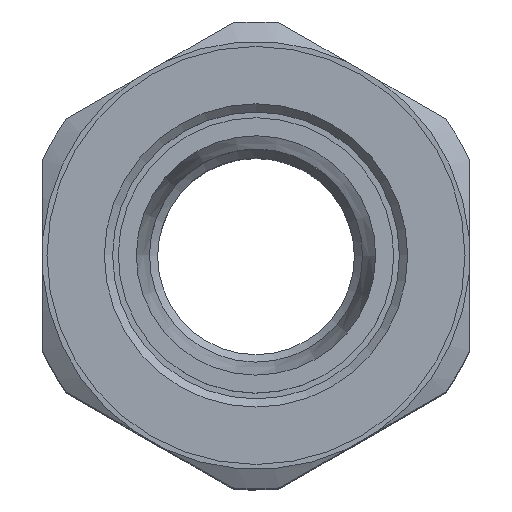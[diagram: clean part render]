
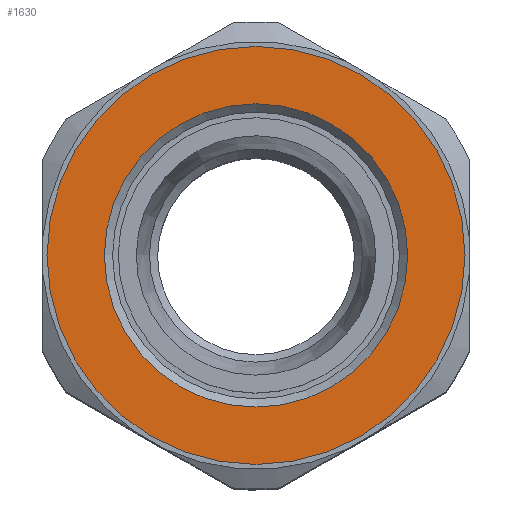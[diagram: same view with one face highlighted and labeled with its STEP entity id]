
A CAD part, top view. The second image highlights one B-rep face of the part: STEP entity #1630.
In plain terms, the highlighted planar face has unit normal (0, 0, 1).
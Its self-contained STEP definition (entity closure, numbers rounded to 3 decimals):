
#1579=CARTESIAN_POINT('',(9.25,0.,38.));
#1580=VERTEX_POINT('',#1579);
#1581=CARTESIAN_POINT('',(0.,0.,38.));
#1582=DIRECTION('',(0.0,0.0,1.0));
#1583=DIRECTION('',(-1.0,0.0,0.0));
#1584=AXIS2_PLACEMENT_3D('',#1581,#1582,#1583);
#1585=CIRCLE('',#1584,9.25);
#1586=EDGE_CURVE('',#1580,#1580,#1585,.T.);
#1611=CARTESIAN_POINT('',(0.,0.,38.));
#1612=DIRECTION('',(0.0,0.0,1.0));
#1613=DIRECTION('',(1.0,0.0,0.0));
#1614=AXIS2_PLACEMENT_3D('',#1611,#1612,#1613);
#1615=PLANE('',#1614);
#1616=CARTESIAN_POINT('',(12.75,0.,38.));
#1617=VERTEX_POINT('',#1616);
#1618=CARTESIAN_POINT('',(0.,0.,38.));
#1619=DIRECTION('',(0.0,0.0,1.0));
#1620=DIRECTION('',(-1.0,0.0,0.0));
#1621=AXIS2_PLACEMENT_3D('',#1618,#1619,#1620);
#1622=CIRCLE('',#1621,12.75);
#1623=EDGE_CURVE('',#1617,#1617,#1622,.T.);
#1624=ORIENTED_EDGE('',*,*,#1623,.T.);
#1625=EDGE_LOOP('',(#1624));
#1626=FACE_OUTER_BOUND('',#1625,.T.);
#1627=ORIENTED_EDGE('',*,*,#1586,.F.);
#1628=EDGE_LOOP('',(#1627));
#1629=FACE_BOUND('',#1628,.T.);
#1630=ADVANCED_FACE('',(#1626,#1629),#1615,.T.);
